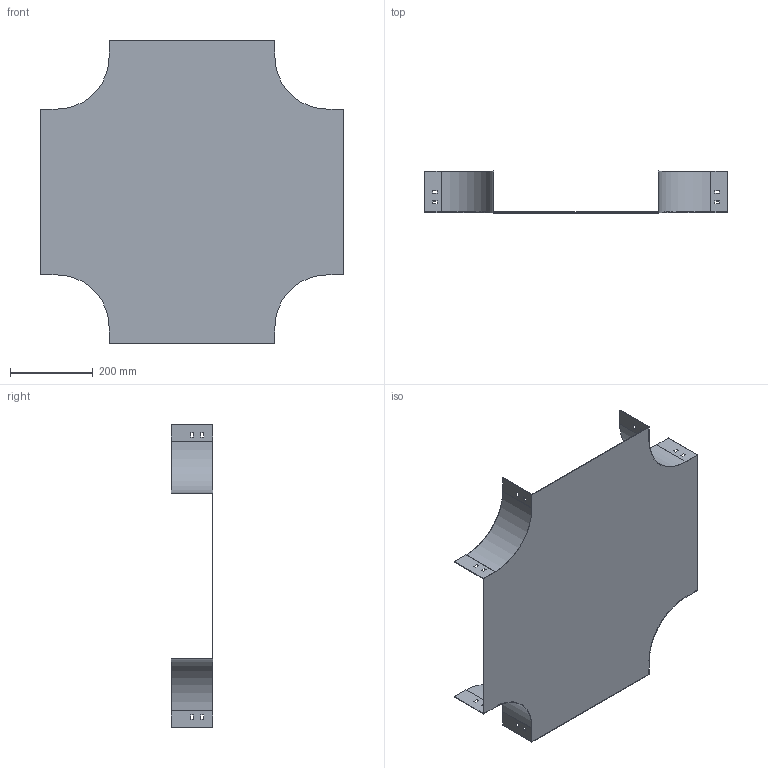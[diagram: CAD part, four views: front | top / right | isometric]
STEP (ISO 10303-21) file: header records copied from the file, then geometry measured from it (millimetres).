
FILE_DESCRIPTION (( 'STEP AP214' ), '1' );
FILE_NAME ('PC_401.step', '2025-07-16T09:22:29', ( '' ), ( '' ), 'SwSTEP 2.0', 'SolidWorks 2023', '' );
FILE_SCHEMA (( 'AUTOMOTIVE_DESIGN' ));
Length unit declared in the file: millimetre
Products named in the file (1): PC_401
Bounding box: 730 x 100 x 730 mm (x, y, z)
Volume: 818457.8 mm3; surface area: 1097333.1 mm2
Topology: 1 solids, 1 shells, 98 faces, 288 edges, 192 vertices
Faces by surface type: plane 90, cylinder 8
Entity records: 3295 total; most frequent: CARTESIAN_POINT 579, ORIENTED_EDGE 576, DIRECTION 502, EDGE_CURVE 288, LINE 272, VECTOR 272, VERTEX_POINT 192, EDGE_LOOP 130
